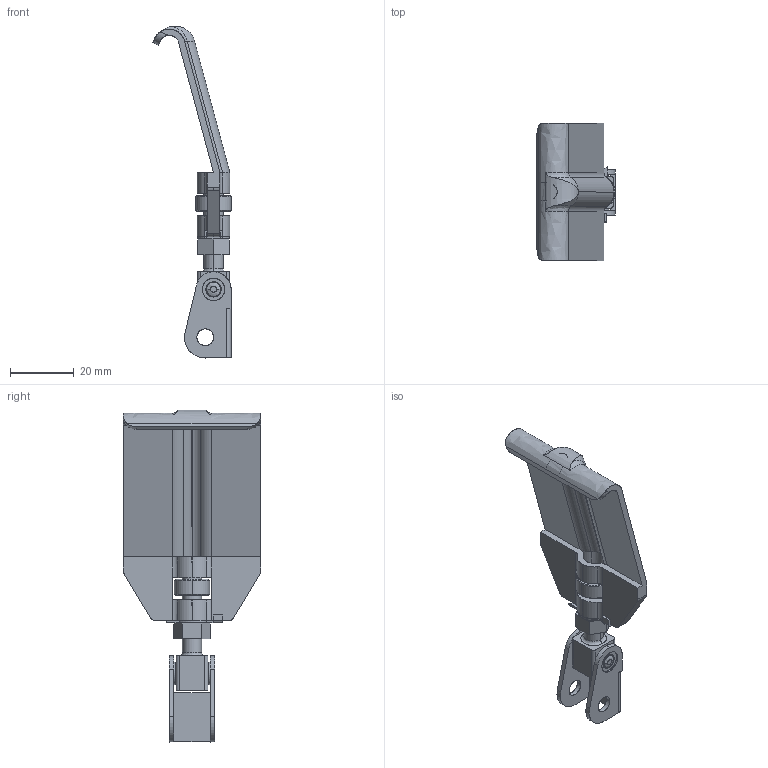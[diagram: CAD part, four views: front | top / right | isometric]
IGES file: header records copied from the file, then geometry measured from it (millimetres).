
Start section: SolidWorks IGES FILE using analytic representation for surfaces
Global section: file name: C:\Documents and Settings\lecoutey\Bureau\GR 78\Assemblage GR58-78 IB.IGS; native system: SolidWorks 2004 by SolidWorks Corporation; preprocessor: Version 5.3; author: lecoutey; date: 050404.180604; units: millimetre
Bounding box: 24.49 x 43 x 104.01 mm (x, y, z)
Surface area: 11713.1 mm2 (no closed solid volume)
Topology: 0 solids, 0 shells, 211 faces, 2696 edges, 2696 vertices
Faces by surface type: bspline 120, revolution 91
